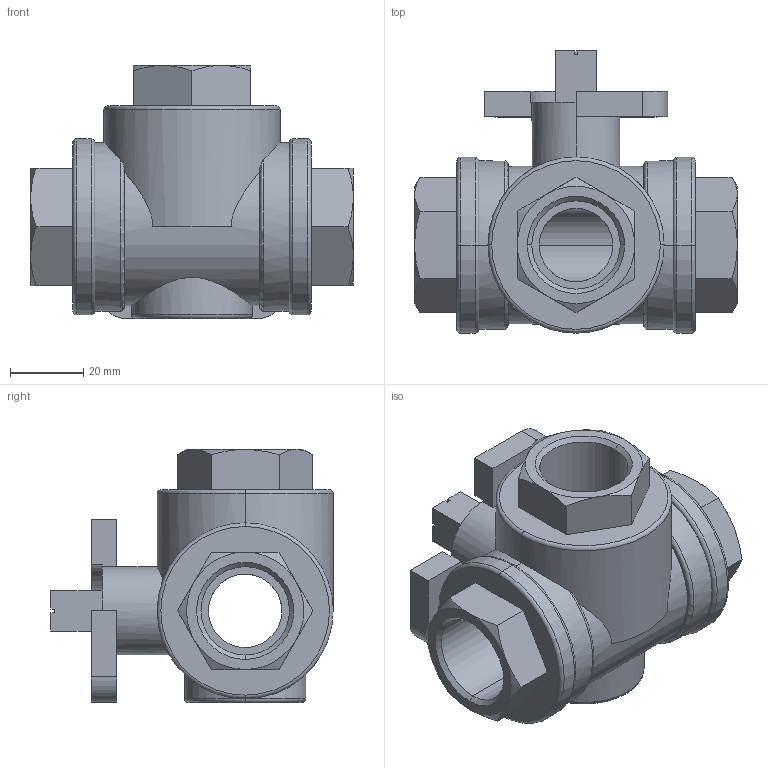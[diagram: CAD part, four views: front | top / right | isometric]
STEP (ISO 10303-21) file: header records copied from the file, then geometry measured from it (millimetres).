
FILE_DESCRIPTION (( 'STEP AP214' ), '1' );
FILE_NAME ('Ballvalve A35-DN20 G3_4.step', '2010-09-23T08:41:00', ( '' ), ( '' ), 'SwSTEP 2.0', 'SolidWorks 2010', '' );
FILE_SCHEMA (( 'AUTOMOTIVE_DESIGN' ));
Length unit declared in the file: millimetre
Products named in the file (1): Ballvalve A35-DN20 G3_4
Bounding box: 88 x 77 x 69 mm (x, y, z)
Volume: 136752 mm3; surface area: 33259.6 mm2
Topology: 1 solids, 1 shells, 128 faces, 314 edges, 194 vertices
Faces by surface type: plane 53, cylinder 36, cone 24, torus 15
Entity records: 4350 total; most frequent: CARTESIAN_POINT 1243, DIRECTION 628, ORIENTED_EDGE 628, EDGE_CURVE 314, AXIS2_PLACEMENT_3D 243, VERTEX_POINT 194, EDGE_LOOP 144, LINE 142
